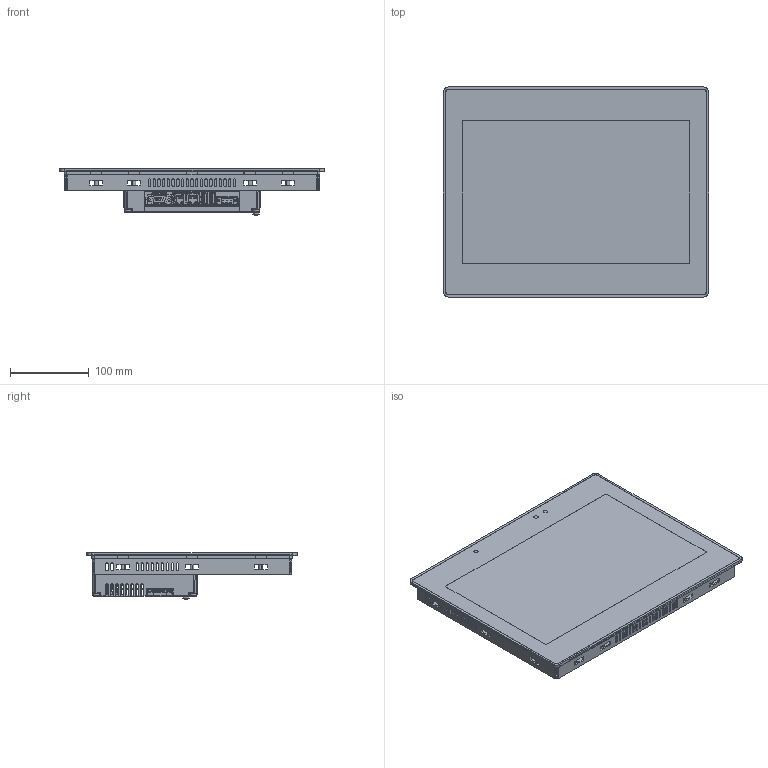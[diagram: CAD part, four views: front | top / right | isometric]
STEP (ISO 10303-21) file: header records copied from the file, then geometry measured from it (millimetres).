
FILE_DESCRIPTION (( 'STEP AP203' ), '1' );
FILE_NAME ('HM513.STEP', '2014-02-12T13:13:23', ( '' ), ( '' ), 'SwSTEP 2.0', 'SolidWorks 2010', '' );
FILE_SCHEMA (( 'CONFIG_CONTROL_DESIGN' ));
Length unit declared in the file: millimetre
Products named in the file (1): HM513
Bounding box: 337 x 267 x 59.39 mm (x, y, z)
Surface area: 489539.3 mm2 (no closed solid volume)
Topology: 0 solids, 130 shells, 2053 faces, 9622 edges, 7377 vertices
Faces by surface type: plane 1027, cylinder 693, cone 115, bspline 92, torus 92, sphere 34
Entity records: 102866 total; most frequent: CARTESIAN_POINT 28352, DIRECTION 15207, ORIENTED_EDGE 13167, EDGE_CURVE 9622, VERTEX_POINT 7377, LINE 6359, VECTOR 6359, AXIS2_PLACEMENT_3D 4424
